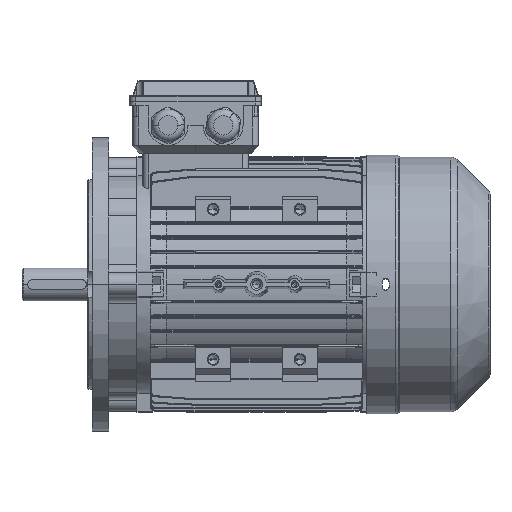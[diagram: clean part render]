
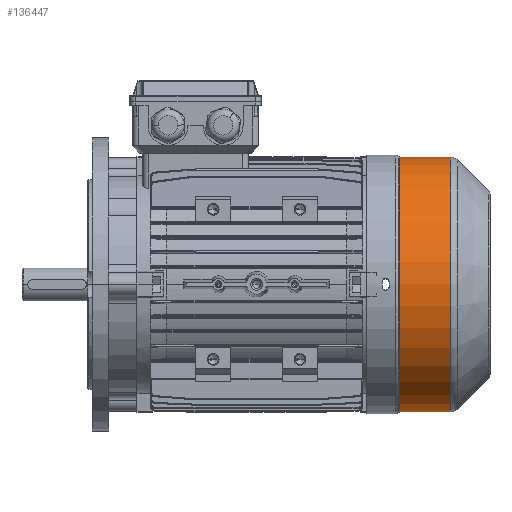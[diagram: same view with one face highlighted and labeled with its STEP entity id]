
A CAD part, top view. The second image highlights one B-rep face of the part: STEP entity #136447.
In plain terms, the highlighted cylindrical face has radius 108.5 mm (diameter 217 mm), a partial arc.
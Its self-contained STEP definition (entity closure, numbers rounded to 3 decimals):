
#62002 = CARTESIAN_POINT ( 'NONE',  ( -28.164, -108.5, 0. ) ) ;
#62056 = CARTESIAN_POINT ( 'NONE',  ( -28.164, 0., 0. ) ) ;
#62066 = CIRCLE ( 'NONE', #62107, 108.5 ) ;
#62067 = CARTESIAN_POINT ( 'NONE',  ( -28.164, 108.5, 0. ) ) ;
#62105 = DIRECTION ( 'NONE',  ( 0., -1., 0. ) ) ;
#62106 = DIRECTION ( 'NONE',  ( -1., 0., 0. ) ) ;
#62107 = AXIS2_PLACEMENT_3D ( 'NONE', #62056, #62106, #62105 ) ;
#62171 = CARTESIAN_POINT ( 'NONE',  ( -71.699, 108.5, 0. ) ) ;
#62232 = CARTESIAN_POINT ( 'NONE',  ( -71.699, -108.5, 0. ) ) ;
#62307 = DIRECTION ( 'NONE',  ( -1., 0., 0. ) ) ;
#62308 = VECTOR ( 'NONE', #62307, 1000. ) ;
#62317 = CARTESIAN_POINT ( 'NONE',  ( -102., -108.5, 0. ) ) ;
#62318 = LINE ( 'NONE', #62317, #62308 ) ;
#62377 = DIRECTION ( 'NONE',  ( -1., 0., 0. ) ) ;
#62378 = VECTOR ( 'NONE', #62377, 1000. ) ;
#62379 = CARTESIAN_POINT ( 'NONE',  ( -102., 108.5, 0. ) ) ;
#62382 = LINE ( 'NONE', #62379, #62378 ) ;
#63424 = CYLINDRICAL_SURFACE ( 'NONE', #63479, 108.5 ) ;
#63472 = DIRECTION ( 'NONE',  ( 0., 1., 0. ) ) ;
#63473 = DIRECTION ( 'NONE',  ( 1., 0., 0. ) ) ;
#63476 = DIRECTION ( 'NONE',  ( 0., -1., 0. ) ) ;
#63477 = DIRECTION ( 'NONE',  ( -1., 0., 0. ) ) ;
#63478 = CARTESIAN_POINT ( 'NONE',  ( -102., 0., 0. ) ) ;
#63479 = AXIS2_PLACEMENT_3D ( 'NONE', #63478, #63477, #63476 ) ;
#63480 = CIRCLE ( 'NONE', #63488, 108.5 ) ;
#63485 = CARTESIAN_POINT ( 'NONE',  ( -71.699, 0., 0. ) ) ;
#63488 = AXIS2_PLACEMENT_3D ( 'NONE', #63485, #63473, #63472 ) ;
#63492 = FACE_OUTER_BOUND ( 'NONE', #136401, .T. ) ;
#135963 = VERTEX_POINT ( 'NONE', #62002 ) ;
#135985 = VERTEX_POINT ( 'NONE', #62067 ) ;
#135998 = EDGE_CURVE ( 'NONE', #135985, #135963, #62066, .T. ) ;
#136037 = VERTEX_POINT ( 'NONE', #62171 ) ;
#136096 = VERTEX_POINT ( 'NONE', #62232 ) ;
#136135 = EDGE_CURVE ( 'NONE', #135963, #136096, #62318, .T. ) ;
#136177 = EDGE_CURVE ( 'NONE', #135985, #136037, #62382, .T. ) ;
#136401 = EDGE_LOOP ( 'NONE', ( #136420, #136472, #136448, #136457 ) ) ;
#136420 = ORIENTED_EDGE ( 'NONE', *, *, #136177, .F. ) ;
#136447 = ADVANCED_FACE ( 'NONE', ( #63492 ), #63424, .T. ) ;
#136448 = ORIENTED_EDGE ( 'NONE', *, *, #136135, .T. ) ;
#136451 = EDGE_CURVE ( 'NONE', #136096, #136037, #63480, .T. ) ;
#136457 = ORIENTED_EDGE ( 'NONE', *, *, #136451, .T. ) ;
#136472 = ORIENTED_EDGE ( 'NONE', *, *, #135998, .T. ) ;
